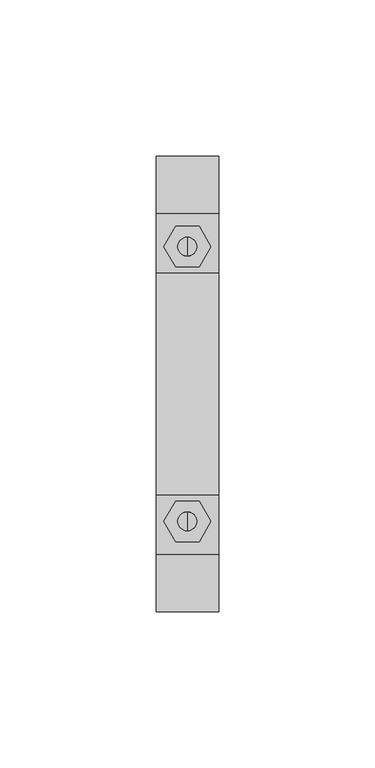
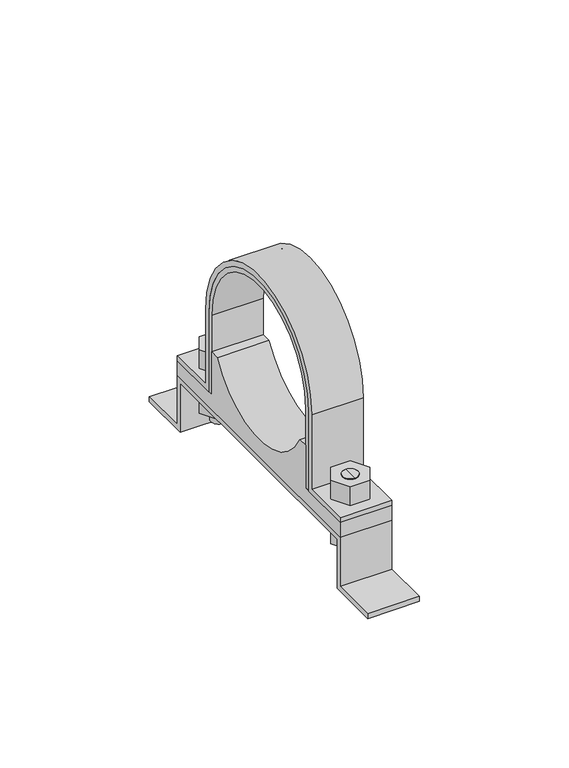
"""IFC4 building model written with IfcOpenShell, lengths in millimetres: valve geometry, Superfix DG3 Clamp (based on pipe) : Superfix DG3 Clamp (based on pipe)."""

from ifc_helpers import new_model, si_unit, point, frame, frame_2d, origin, place, context, project, spatial, polyline, circle_curve, trimmed, segment, composite_curve, outline, extrude, source, transform, mapped, element, save
from ifc_brep_helpers import plane_surface, cylinder_surface, advanced_brep


def valve_242b7707(model_context):
    return source(origin(), model_context, "Body", "SolidModel", [
        advanced_brep(
        [(0.0, 47.0, 7.0), (0.0, 41.0, 7.0), (0.0, 41.0, 20.0), (0.0, 47.0, 20.0), (0.0, 44.0, 7.0)],
        [
            (0, 1, circle_curve(frame((0.0, 44.0, 7.0), z_axis=(0.0, 0.0, 1.0), x_axis=(0.0, 1.0, 0.0)), 3.0)),
            (1, 2),
            (2, 3, circle_curve(frame((0.0, 44.0, 20.0), z_axis=(0.0, 0.0, -1.0), x_axis=(0.0, 1.0, 0.0)), 3.0)),
            (3, 0),
            (1, 0, circle_curve(frame((0.0, 44.0, 7.0), z_axis=(0.0, 0.0, 1.0), x_axis=(0.0, 1.0, 0.0)), 3.0)),
            (3, 2, circle_curve(frame((0.0, 44.0, 20.0), z_axis=(0.0, 0.0, -1.0), x_axis=(0.0, 1.0, 0.0)), 3.0)),
            (0, 4),
            (4, 1),
        ],
        [
            cylinder_surface(frame((0.0, 44.0, 58.7806094), z_axis=(0.0, 0.0, 1.0), x_axis=(0.0, 1.0, 0.0)), 3.0),
            plane_surface(frame((0.0, 44.0, 7.0), z_axis=(0.0, 0.0, -1.0), x_axis=(0.0, 1.0, 0.0))),
            plane_surface(frame((13.75, -54.5, 20.0), z_axis=(0.0, 0.0, 1.0), x_axis=(-1.0, 0.0, 0.0))),
        ],
        [
            (0, [[1, 2, 3, 4]]),
            (0, [[5, -4, 6, -2]]),
            (1, [[-1, 7, 8]]),
            (1, [[-5, -8, -7]]),
            (2, [[-3, -6]]),
        ],
    ),
        advanced_brep(
        [(0.0, 41.0, 38.0), (0.0, 47.0, 38.0), (0.0, 47.0, 28.0), (0.0, 41.0, 28.0), (0.0, 44.0, 38.0)],
        [
            (0, 1, circle_curve(frame((0.0, 44.0, 38.0), z_axis=(0.0, 0.0, -1.0), x_axis=(0.0, 1.0, 0.0)), 3.0)),
            (1, 2),
            (2, 3, circle_curve(frame((0.0, 44.0, 28.0), z_axis=(0.0, 0.0, 1.0), x_axis=(0.0, 1.0, 0.0)), 3.0)),
            (3, 0),
            (1, 0, circle_curve(frame((0.0, 44.0, 38.0), z_axis=(0.0, 0.0, -1.0), x_axis=(0.0, 1.0, 0.0)), 3.0)),
            (3, 2, circle_curve(frame((0.0, 44.0, 28.0), z_axis=(0.0, 0.0, 1.0), x_axis=(0.0, 1.0, 0.0)), 3.0)),
            (0, 4),
            (4, 1),
        ],
        [
            cylinder_surface(frame((0.0, 44.0, 58.7806094), z_axis=(0.0, 0.0, 1.0), x_axis=(0.0, 1.0, 0.0)), 3.0),
            plane_surface(frame((0.0, 44.0, 38.0), z_axis=(0.0, 0.0, 1.0), x_axis=(0.0, 1.0, 0.0))),
            plane_surface(frame((13.75, 54.5, 28.0), z_axis=(0.0, 0.0, -1.0), x_axis=(-1.0, 0.0, 0.0))),
        ],
        [
            (0, [[1, 2, 3, 4]]),
            (0, [[5, -4, 6, -2]]),
            (1, [[-1, 7, 8]]),
            (1, [[-5, -8, -7]]),
            (2, [[-3, -6]]),
        ],
    ),
        advanced_brep(
        [(0.0, -47.0, 38.0), (0.0, -41.0, 38.0), (0.0, -41.0, 28.0), (0.0, -47.0, 28.0), (0.0, -44.0, 38.0)],
        [
            (0, 1, circle_curve(frame((0.0, -44.0, 38.0), z_axis=(0.0, 0.0, -1.0), x_axis=(0.0, -1.0, 0.0)), 3.0)),
            (1, 2),
            (2, 3, circle_curve(frame((0.0, -44.0, 28.0), z_axis=(0.0, 0.0, 1.0), x_axis=(0.0, -1.0, 0.0)), 3.0)),
            (3, 0),
            (1, 0, circle_curve(frame((0.0, -44.0, 38.0), z_axis=(0.0, 0.0, -1.0), x_axis=(0.0, -1.0, 0.0)), 3.0)),
            (3, 2, circle_curve(frame((0.0, -44.0, 28.0), z_axis=(0.0, 0.0, 1.0), x_axis=(0.0, -1.0, 0.0)), 3.0)),
            (0, 4),
            (4, 1),
        ],
        [
            cylinder_surface(frame((0.0, -44.0, 58.7806094), z_axis=(0.0, 0.0, -1.0), x_axis=(0.0, -1.0, 0.0)), 3.0),
            plane_surface(frame((0.0, -44.0, 38.0), z_axis=(0.0, 0.0, 1.0), x_axis=(0.0, -1.0, 0.0))),
            plane_surface(frame((13.75, 54.5, 28.0), z_axis=(0.0, 0.0, -1.0), x_axis=(-1.0, 0.0, 0.0))),
        ],
        [
            (0, [[1, 2, 3, 4]]),
            (0, [[5, -4, 6, -2]]),
            (1, [[-1, 7, 8]]),
            (1, [[-5, -8, -7]]),
            (2, [[-3, -6]]),
        ],
    ),
        advanced_brep(
        [(0.0, -41.0, 7.0), (0.0, -47.0, 7.0), (0.0, -47.0, 20.0), (0.0, -41.0, 20.0), (0.0, -44.0, 7.0)],
        [
            (0, 1, circle_curve(frame((0.0, -44.0, 7.0), z_axis=(0.0, 0.0, 1.0), x_axis=(0.0, -1.0, 0.0)), 3.0)),
            (1, 2),
            (2, 3, circle_curve(frame((0.0, -44.0, 20.0), z_axis=(0.0, 0.0, -1.0), x_axis=(0.0, -1.0, 0.0)), 3.0)),
            (3, 0),
            (1, 0, circle_curve(frame((0.0, -44.0, 7.0), z_axis=(0.0, 0.0, 1.0), x_axis=(0.0, -1.0, 0.0)), 3.0)),
            (3, 2, circle_curve(frame((0.0, -44.0, 20.0), z_axis=(0.0, 0.0, -1.0), x_axis=(0.0, -1.0, 0.0)), 3.0)),
            (0, 4),
            (4, 1),
        ],
        [
            cylinder_surface(frame((0.0, -44.0, 58.7806094), z_axis=(0.0, 0.0, -1.0), x_axis=(0.0, -1.0, 0.0)), 3.0),
            plane_surface(frame((0.0, -44.0, 7.0), z_axis=(0.0, 0.0, -1.0), x_axis=(0.0, -1.0, 0.0))),
            plane_surface(frame((13.75, -54.5, 20.0), z_axis=(0.0, 0.0, 1.0), x_axis=(-1.0, 0.0, 0.0))),
        ],
        [
            (0, [[1, 2, 3, 4]]),
            (0, [[5, -4, 6, -2]]),
            (1, [[-1, 7, 8]]),
            (1, [[-5, -8, -7]]),
            (2, [[-3, -6]]),
        ],
    ),
        extrude(outline(composite_curve([segment(trimmed(circle_curve(frame_2d((0.0, 60.5)), 33.5), [point((33.5, 60.5))], [point((-33.5, 60.5))], True, "CARTESIAN"), True, "CONTINUOUS"), segment(polyline([(-33.5, 60.5), (-33.5, 28.0), (-54.5, 28.0), (-54.5, 30.0), (-35.5, 30.0), (-35.5, 60.5)]), True, "CONTINUOUS"), segment(trimmed(circle_curve(frame_2d((0.0, 60.5)), 35.5), [point((-35.5, 60.5))], [point((35.5, 60.5))], False, "CARTESIAN"), True, "CONTINUOUS"), segment(polyline([(35.5, 60.5), (35.5, 30.0), (54.5, 30.0), (54.5, 28.0), (33.5, 28.0), (33.5, 60.5)]), True, "CONTINUOUS")], self_intersect=False)), frame((-10.0, 0.0, 0.0), z_axis=(1.0, 0.0, 0.0), x_axis=(0.0, 1.0, 0.0)), (0.0, 0.0, 1.0), 20.0),
        extrude(outline(polyline([(7.5055535, -44.0), (3.7527767, -50.5), (-3.7527767, -50.5), (-7.5055535, -44.0), (-3.7527767, -37.5), (3.7527767, -37.5), (7.5055535, -44.0)]), holes=[composite_curve([segment(trimmed(circle_curve(frame_2d((0.0, -44.0)), 3.0), [point((3.0, -44.0))], [point((-3.0, -44.0))], True, "CARTESIAN"), True, "CONTINUOUS"), segment(trimmed(circle_curve(frame_2d((0.0, -44.0)), 3.0), [point((-3.0, -44.0))], [point((3.0, -44.0))], True, "CARTESIAN"), True, "CONTINUOUS")], self_intersect=False)]), frame((0.0, 0.0, 30.0), z_axis=(0.0, 0.0, 1.0), x_axis=(1.0, 0.0, 0.0)), (0.0, 0.0, 1.0), 8.0),
        extrude(outline(polyline([(7.5055535, 44.0), (3.7527767, 37.5), (-3.7527767, 37.5), (-7.5055535, 44.0), (-3.7527767, 50.5), (3.7527767, 50.5), (7.5055535, 44.0)]), holes=[composite_curve([segment(trimmed(circle_curve(frame_2d((0.0, 44.0)), 3.0), [point((3.0, 44.0))], [point((-3.0, 44.0))], True, "CARTESIAN"), True, "CONTINUOUS"), segment(trimmed(circle_curve(frame_2d((0.0, 44.0)), 3.0), [point((-3.0, 44.0))], [point((3.0, 44.0))], True, "CARTESIAN"), True, "CONTINUOUS")], self_intersect=False)]), frame((0.0, 0.0, 30.0), z_axis=(0.0, 0.0, 1.0), x_axis=(1.0, 0.0, 0.0)), (0.0, 0.0, 1.0), 8.0),
        extrude(outline(polyline([(7.5055535, -44.0), (3.7527767, -50.5), (-3.7527767, -50.5), (-7.5055535, -44.0), (-3.7527767, -37.5), (3.7527767, -37.5), (7.5055535, -44.0)]), holes=[composite_curve([segment(trimmed(circle_curve(frame_2d((0.0, -44.0)), 3.0), [point((3.0, -44.0))], [point((-3.0, -44.0))], True, "CARTESIAN"), True, "CONTINUOUS"), segment(trimmed(circle_curve(frame_2d((0.0, -44.0)), 3.0), [point((-3.0, -44.0))], [point((3.0, -44.0))], True, "CARTESIAN"), True, "CONTINUOUS")], self_intersect=False)]), frame((0.0, 0.0, 12.0), z_axis=(0.0, 0.0, 1.0), x_axis=(1.0, 0.0, 0.0)), (0.0, 0.0, 1.0), 8.0),
        extrude(outline(polyline([(7.5055535, 44.0), (3.7527767, 37.5), (-3.7527767, 37.5), (-7.5055535, 44.0), (-3.7527767, 50.5), (3.7527767, 50.5), (7.5055535, 44.0)]), holes=[composite_curve([segment(trimmed(circle_curve(frame_2d((0.0, 44.0)), 3.0), [point((3.0, 44.0))], [point((-3.0, 44.0))], True, "CARTESIAN"), True, "CONTINUOUS"), segment(trimmed(circle_curve(frame_2d((0.0, 44.0)), 3.0), [point((-3.0, 44.0))], [point((3.0, 44.0))], True, "CARTESIAN"), True, "CONTINUOUS")], self_intersect=False)]), frame((0.0, 0.0, 12.0), z_axis=(0.0, 0.0, 1.0), x_axis=(1.0, 0.0, 0.0)), (0.0, 0.0, 1.0), 8.0),
        extrude(outline(composite_curve([segment(polyline([(-54.5, 22.0), (-54.5, 28.0), (-31.5, 28.0), (-31.5, 45.5), (-27.699278, 45.5)]), True, "CONTINUOUS"), segment(trimmed(circle_curve(frame_2d((0.0, 60.5)), 31.5), [point((-27.699278, 45.5))], [point((27.699278, 45.5))], True, "CARTESIAN"), True, "CONTINUOUS"), segment(polyline([(27.699278, 45.5), (31.5, 45.5), (31.5, 28.0), (54.5, 28.0), (54.5, 22.0), (-54.5, 22.0)]), True, "CONTINUOUS")], self_intersect=False)), frame((-10.0, 0.0, 0.0), z_axis=(1.0, 0.0, 0.0), x_axis=(0.0, 1.0, 0.0)), (0.0, 0.0, 1.0), 20.0),
        extrude(outline(polyline([(-73.0, 2.0), (-54.5, 2.0), (-54.5, 22.0), (0.0, 22.0), (54.5, 22.0), (54.5, 2.0), (73.0, 2.0), (73.0, 0.0), (52.5, 0.0), (52.5, 20.0), (0.0, 20.0), (-52.5, 20.0), (-52.5, 0.0), (-73.0, 0.0), (-73.0, 2.0)])), frame((-10.0, 0.0, 0.0), z_axis=(1.0, 0.0, 0.0), x_axis=(0.0, 1.0, 0.0)), (0.0, 0.0, 1.0), 20.0),
        extrude(outline(composite_curve([segment(trimmed(circle_curve(frame_2d((0.0, 60.5)), 31.5), [point((31.5, 60.5))], [point((-31.5, 60.5))], True, "CARTESIAN"), True, "CONTINUOUS"), segment(polyline([(-31.5, 60.5), (-31.5, 28.0), (-33.5, 28.0), (-33.5, 60.5)]), True, "CONTINUOUS"), segment(trimmed(circle_curve(frame_2d((0.0, 60.5)), 33.5), [point((-33.5, 60.5))], [point((33.5, 60.5))], False, "CARTESIAN"), True, "CONTINUOUS"), segment(polyline([(33.5, 60.5), (33.5, 28.0), (31.5, 28.0), (31.5, 60.5)]), True, "CONTINUOUS")], self_intersect=False)), frame((-10.0, 0.0, 0.0), z_axis=(1.0, 0.0, 0.0), x_axis=(0.0, 1.0, 0.0)), (0.0, 0.0, 1.0), 20.0),
    ])


if __name__ == "__main__":
    model = new_model("IFC4")
    model_context = context("Model", 3, world=origin())
    ifc_project = project(units=[si_unit("LENGTHUNIT", "METRE", prefix="MILLI")], contexts=[model_context])
    site = spatial("IfcSite", under=ifc_project)
    building = spatial("IfcBuilding", under=site)
    placement = place(None, origin())
    valve_shape = valve_242b7707(model_context)
    element("IfcValve", 1, ObjectType="Superfix DG3 Clamp (based on pipe) : Superfix DG3 Clamp (based on pipe)", at=placement, inside=building, context=model_context, shape_type="MappedRepresentation", body=[
        mapped(valve_shape, transform((0.0, 0.0, 0.0), x_axis=(1.0, 0.0, 0.0), y_axis=(0.0, 1.0, 0.0), z_axis=(0.0, 0.0, 1.0))),
    ])
    save(model, "model.ifc")
